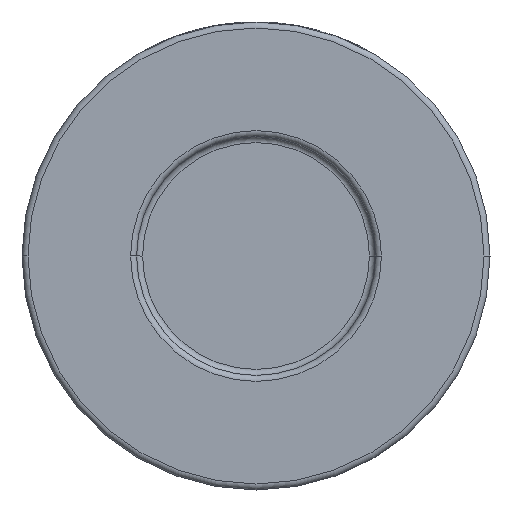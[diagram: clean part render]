
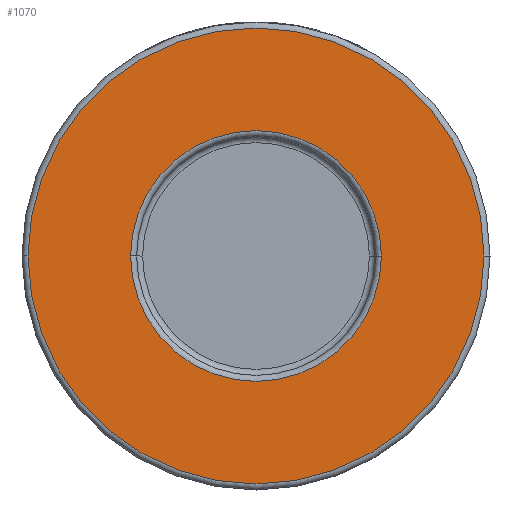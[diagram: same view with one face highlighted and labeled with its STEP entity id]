
A CAD part, front view. The second image highlights one B-rep face of the part: STEP entity #1070.
In plain terms, the highlighted planar face has unit normal (0, -1, 0).
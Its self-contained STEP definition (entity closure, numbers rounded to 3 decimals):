
#50 = DIRECTION ( 'NONE',  ( 0., -1., 0. ) ) ;
#112 = CARTESIAN_POINT ( 'NONE',  ( 38., -26., 0. ) ) ;
#349 = DIRECTION ( 'NONE',  ( 1., 0., 0. ) ) ;
#418 = EDGE_LOOP ( 'NONE', ( #2157, #1985 ) ) ;
#461 = EDGE_LOOP ( 'NONE', ( #2534, #4068 ) ) ;
#598 = CARTESIAN_POINT ( 'NONE',  ( 20.9, -26., 0. ) ) ;
#647 = FACE_BOUND ( 'NONE', #418, .T. ) ;
#793 = DIRECTION ( 'NONE',  ( 1., 0., 0. ) ) ;
#977 = VERTEX_POINT ( 'NONE', #2049 ) ;
#1029 = AXIS2_PLACEMENT_3D ( 'NONE', #1532, #4359, #2960 ) ;
#1070 = ADVANCED_FACE ( 'NONE', ( #647, #1407 ), #4583, .T. ) ;
#1100 = DIRECTION ( 'NONE',  ( 0., 1., 0. ) ) ;
#1127 = CARTESIAN_POINT ( 'NONE',  ( 0., -26., 0. ) ) ;
#1257 = AXIS2_PLACEMENT_3D ( 'NONE', #1127, #1100, #793 ) ;
#1366 = VERTEX_POINT ( 'NONE', #598 ) ;
#1407 = FACE_OUTER_BOUND ( 'NONE', #461, .T. ) ;
#1480 = CARTESIAN_POINT ( 'NONE',  ( 39., -26., 0. ) ) ;
#1532 = CARTESIAN_POINT ( 'NONE',  ( 0., -26., 0. ) ) ;
#1693 = CARTESIAN_POINT ( 'NONE',  ( -20.9, -26., 0. ) ) ;
#1736 = EDGE_CURVE ( 'NONE', #2431, #977, #3119, .T. ) ;
#1926 = AXIS2_PLACEMENT_3D ( 'NONE', #1480, #50, #349 ) ;
#1985 = ORIENTED_EDGE ( 'NONE', *, *, #2025, .T. ) ;
#2025 = EDGE_CURVE ( 'NONE', #3046, #1366, #3277, .T. ) ;
#2026 = AXIS2_PLACEMENT_3D ( 'NONE', #4166, #4493, #3072 ) ;
#2049 = CARTESIAN_POINT ( 'NONE',  ( -38., -26., 0. ) ) ;
#2157 = ORIENTED_EDGE ( 'NONE', *, *, #3527, .T. ) ;
#2400 = AXIS2_PLACEMENT_3D ( 'NONE', #3047, #4469, #3728 ) ;
#2431 = VERTEX_POINT ( 'NONE', #112 ) ;
#2534 = ORIENTED_EDGE ( 'NONE', *, *, #1736, .T. ) ;
#2916 = CIRCLE ( 'NONE', #2400, 38. ) ;
#2960 = DIRECTION ( 'NONE',  ( 1., 0., 0. ) ) ;
#3046 = VERTEX_POINT ( 'NONE', #1693 ) ;
#3047 = CARTESIAN_POINT ( 'NONE',  ( 0., -26., 0. ) ) ;
#3072 = DIRECTION ( 'NONE',  ( 1., 0., 0. ) ) ;
#3119 = CIRCLE ( 'NONE', #1029, 38. ) ;
#3277 = CIRCLE ( 'NONE', #1257, 20.9 ) ;
#3435 = CIRCLE ( 'NONE', #2026, 20.9 ) ;
#3527 = EDGE_CURVE ( 'NONE', #1366, #3046, #3435, .T. ) ;
#3529 = EDGE_CURVE ( 'NONE', #977, #2431, #2916, .T. ) ;
#3728 = DIRECTION ( 'NONE',  ( 1., 0., 0. ) ) ;
#4068 = ORIENTED_EDGE ( 'NONE', *, *, #3529, .T. ) ;
#4166 = CARTESIAN_POINT ( 'NONE',  ( 0., -26., 0. ) ) ;
#4359 = DIRECTION ( 'NONE',  ( 0., -1., 0. ) ) ;
#4469 = DIRECTION ( 'NONE',  ( 0., -1., 0. ) ) ;
#4493 = DIRECTION ( 'NONE',  ( 0., 1., 0. ) ) ;
#4583 = PLANE ( 'NONE',  #1926 ) ;
